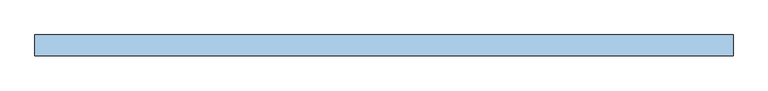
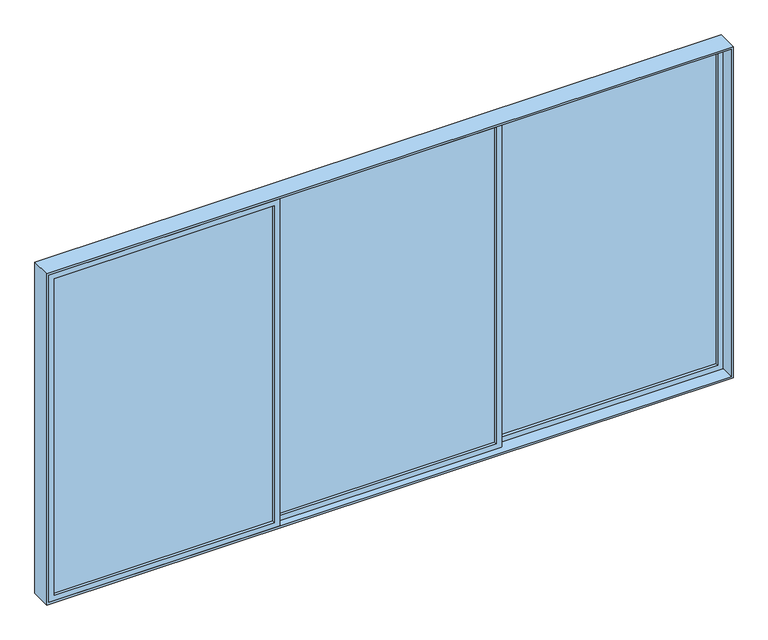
"""IFC4 building model written with IfcOpenShell, lengths in millimetres: window geometry, VENT_ALUM_CORR_3HOJAS_CORRE 2 : VD-14 / CORRE RECAM 5.0 X 2.55."""

from ifc_helpers import new_model, si_unit, frame, origin, place, context, project, spatial, polyline, outline, extrude, source, transform, mapped, element, save


def window_d98a501c(model_context):
    return source(origin(), model_context, "Body", "SweptSolid", [
        extrude(outline(polyline([(-2445.0, -47.0), (-841.6666667, -47.0), (-841.6666667, -53.0), (-2445.0, -53.0), (-2445.0, -47.0)])), frame((0.0, 0.0, 855.0), z_axis=(0.0, 0.0, 1.0), x_axis=(1.0, 0.0, 0.0)), (0.0, 0.0, 1.0), 2440.0),
        extrude(outline(polyline([(815.0, -2485.0), (815.0, -801.6666667), (3335.0, -801.6666667), (3335.0, -2485.0), (815.0, -2485.0)]), holes=[polyline([(3295.0, -2445.0), (3295.0, -841.6666667), (855.0, -841.6666667), (855.0, -2445.0), (3295.0, -2445.0)])]), frame((0.0, -75.0, 0.0), z_axis=(0.0, 1.0, 0.0), x_axis=(0.0, 0.0, 1.0)), (0.0, 0.0, 1.0), 50.0),
        extrude(outline(polyline([(-801.6666667, 3.0), (801.6666667, 3.0), (801.6666667, -3.0), (-801.6666667, -3.0), (-801.6666667, 3.0)])), frame((0.0, 0.0, 855.0), z_axis=(0.0, 0.0, 1.0), x_axis=(1.0, 0.0, 0.0)), (0.0, 0.0, 1.0), 2440.0),
        extrude(outline(polyline([(815.0, -841.6666667), (815.0, 841.6666667), (3335.0, 841.6666667), (3335.0, -841.6666667), (815.0, -841.6666667)]), holes=[polyline([(3295.0, -801.6666667), (3295.0, 801.6666667), (855.0, 801.6666667), (855.0, -801.6666667), (3295.0, -801.6666667)])]), frame((0.0, -25.0, 0.0), z_axis=(0.0, 1.0, 0.0), x_axis=(0.0, 0.0, 1.0)), (0.0, 0.0, 1.0), 50.0),
        extrude(outline(polyline([(841.6666667, 53.0), (2445.0, 53.0), (2445.0, 47.0), (841.6666667, 47.0), (841.6666667, 53.0)])), frame((0.0, 0.0, 855.0), z_axis=(0.0, 0.0, 1.0), x_axis=(1.0, 0.0, 0.0)), (0.0, 0.0, 1.0), 2440.0),
        extrude(outline(polyline([(815.0, 801.6666667), (815.0, 2485.0), (3335.0, 2485.0), (3335.0, 801.6666667), (815.0, 801.6666667)]), holes=[polyline([(3295.0, 841.6666667), (3295.0, 2445.0), (855.0, 2445.0), (855.0, 841.6666667), (3295.0, 841.6666667)])]), frame((0.0, 25.0, 0.0), z_axis=(0.0, 1.0, 0.0), x_axis=(0.0, 0.0, 1.0)), (0.0, 0.0, 1.0), 50.0),
        extrude(outline(polyline([(800.0, -2500.0), (800.0, 2500.0), (3350.0, 2500.0), (3350.0, -2500.0), (800.0, -2500.0)]), holes=[polyline([(3335.0, -2485.0), (3335.0, 2485.0), (815.0, 2485.0), (815.0, -2485.0), (3335.0, -2485.0)])]), frame((0.0, -75.0, 0.0), z_axis=(0.0, 1.0, 0.0), x_axis=(0.0, 0.0, 1.0)), (0.0, 0.0, 1.0), 150.0),
    ])


if __name__ == "__main__":
    model = new_model("IFC4")
    model_context = context("Model", 3, world=origin())
    ifc_project = project(units=[si_unit("LENGTHUNIT", "METRE", prefix="MILLI")], contexts=[model_context])
    site = spatial("IfcSite", under=ifc_project)
    building = spatial("IfcBuilding", under=site)
    placement = place(None, origin())
    window_shape = window_d98a501c(model_context)
    element("IfcWindow", 1, ObjectType="VENT_ALUM_CORR_3HOJAS_CORRE 2 : VD-14 / CORRE RECAM 5.0 X 2.55", at=placement, inside=building, context=model_context, shape_type="MappedRepresentation", body=[
        mapped(window_shape, transform((0.0, 0.0, 0.0), x_axis=(1.0, 0.0, 0.0), y_axis=(0.0, 1.0, 0.0), z_axis=(0.0, 0.0, 1.0))),
    ])
    save(model, "model.ifc")
